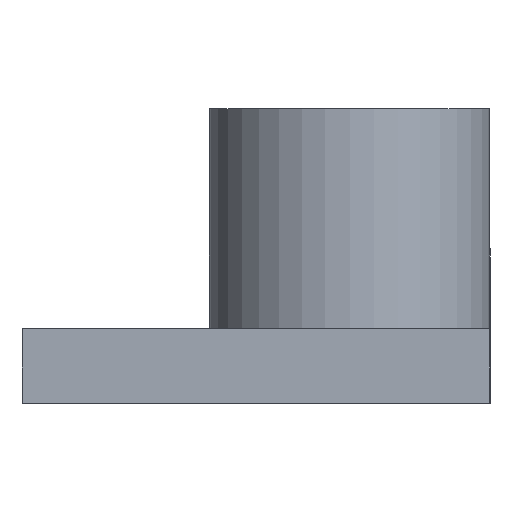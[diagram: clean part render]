
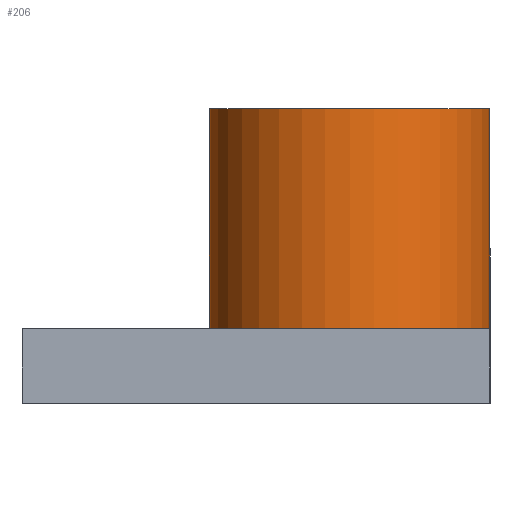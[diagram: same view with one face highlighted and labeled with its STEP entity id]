
A CAD part, left-side view. The second image highlights one B-rep face of the part: STEP entity #206.
In plain terms, the highlighted cylindrical face has radius 3 mm (diameter 6 mm), a full revolution.
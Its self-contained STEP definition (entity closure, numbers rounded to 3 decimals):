
#206 = ADVANCED_FACE('',(#207),#234,.T.);
#207 = FACE_BOUND('',#208,.F.);
#208 = EDGE_LOOP('',(#209,#219,#226,#227));
#209 = ORIENTED_EDGE('',*,*,#210,.T.);
#210 = EDGE_CURVE('',#211,#213,#215,.T.);
#211 = VERTEX_POINT('',#212);
#212 = CARTESIAN_POINT('',(60.46,3.,0.));
#213 = VERTEX_POINT('',#214);
#214 = CARTESIAN_POINT('',(60.46,3.,6.3));
#215 = LINE('',#216,#217);
#216 = CARTESIAN_POINT('',(60.46,3.,0.));
#217 = VECTOR('',#218,1.);
#218 = DIRECTION('',(0.,0.,1.));
#219 = ORIENTED_EDGE('',*,*,#220,.T.);
#220 = EDGE_CURVE('',#213,#213,#221,.T.);
#221 = CIRCLE('',#222,3.);
#222 = AXIS2_PLACEMENT_3D('',#223,#224,#225);
#223 = CARTESIAN_POINT('',(57.46,3.,6.3));
#224 = DIRECTION('',(0.,0.,1.));
#225 = DIRECTION('',(1.,0.,0.));
#226 = ORIENTED_EDGE('',*,*,#210,.F.);
#227 = ORIENTED_EDGE('',*,*,#228,.F.);
#228 = EDGE_CURVE('',#211,#211,#229,.T.);
#229 = CIRCLE('',#230,3.);
#230 = AXIS2_PLACEMENT_3D('',#231,#232,#233);
#231 = CARTESIAN_POINT('',(57.46,3.,0.));
#232 = DIRECTION('',(0.,0.,1.));
#233 = DIRECTION('',(1.,0.,0.));
#234 = CYLINDRICAL_SURFACE('',#235,3.);
#235 = AXIS2_PLACEMENT_3D('',#236,#237,#238);
#236 = CARTESIAN_POINT('',(57.46,3.,0.));
#237 = DIRECTION('',(-0.,-0.,-1.));
#238 = DIRECTION('',(1.,0.,0.));
